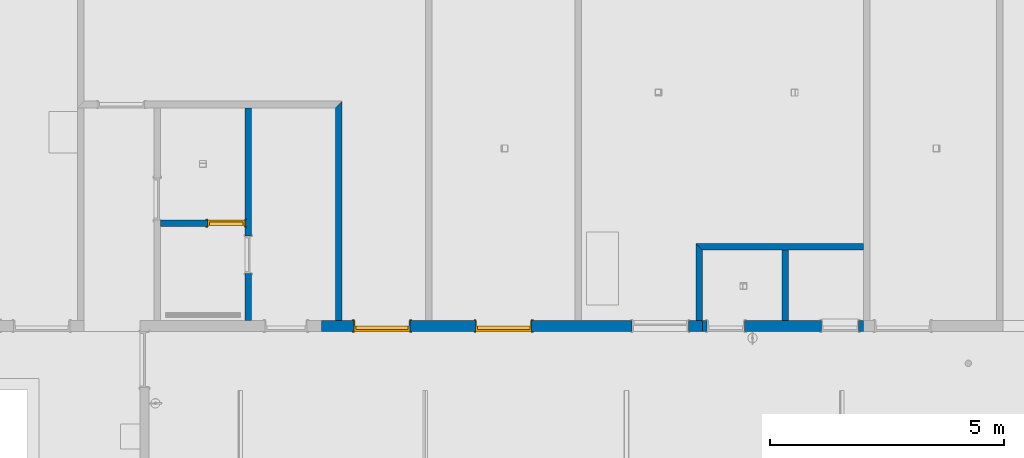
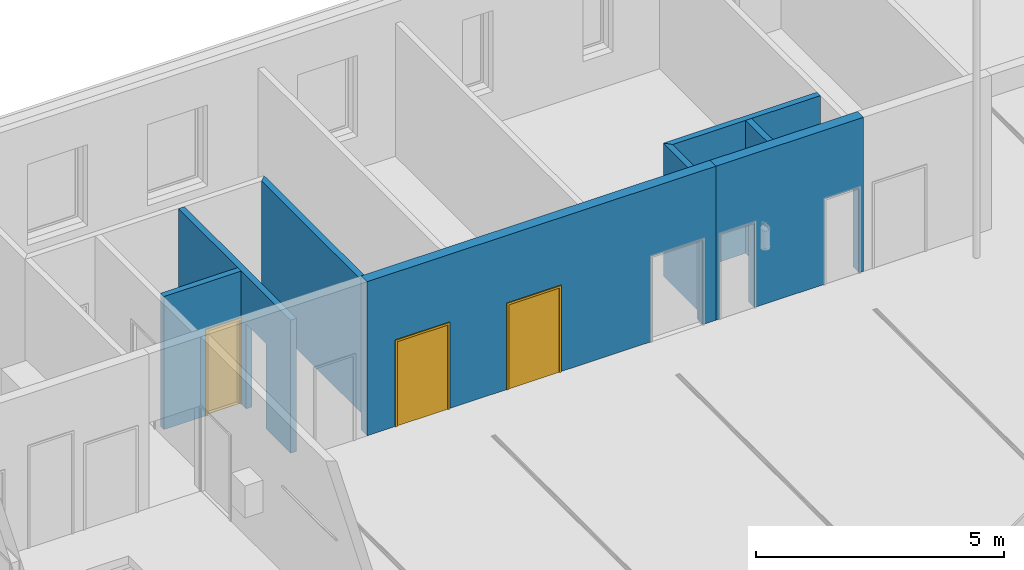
# One storey, part 10 of 112: 8 walls, 3 doors, 7 openings.
"""IFC2X3 building model written with IfcOpenShell, lengths in millimetres."""

from ifc_helpers import new_model, entity, si_unit, converted_unit, derived_unit, money_unit, direction, frame, origin_with_axes, origin_2d_with_axis, place, context, subcontext, project, spatial, polyline, rectangle, outline, extrude, faceted_brep, source, transform, mapped, material, layer, layer_set, layer_usage, type_object, element, fill, save


model = new_model("IFC2X3")

# Units and contexts
model_context = context("Model", 3, precision=0.01, world=origin_with_axes(), true_north=direction((0.0, 1.0)))
body_context = subcontext(model_context, "Body", "Model", "MODEL_VIEW")
ifc_project = project(units=[si_unit("LENGTHUNIT", "METRE", prefix="MILLI"), si_unit("AREAUNIT", "SQUARE_METRE"), si_unit("VOLUMEUNIT", "CUBIC_METRE"), converted_unit("PLANEANGLEUNIT", "DEGREE", entity("IfcPlaneAngleMeasure", 0.0174532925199), si_unit("PLANEANGLEUNIT", "RADIAN"), dimensions=[0, 0, 0, 0, 0, 0, 0]), si_unit("SOLIDANGLEUNIT", "STERADIAN"), money_unit("EUR"), converted_unit("TIMEUNIT", "Year", entity("IfcTimeMeasure", 31556926.0), si_unit("TIMEUNIT", "SECOND"), dimensions=[0, 0, 1, 0, 0, 0, 0]), si_unit("MASSUNIT", "GRAM", prefix="KILO"), si_unit("THERMODYNAMICTEMPERATUREUNIT", "DEGREE_CELSIUS"), si_unit("LUMINOUSINTENSITYUNIT", "LUMEN"), si_unit("ENERGYUNIT", "JOULE", prefix="MEGA"), derived_unit("THERMALCONDUCTANCEUNIT", [(si_unit("POWERUNIT", "WATT"), 1), (si_unit("LENGTHUNIT", "METRE"), -1), (si_unit("THERMODYNAMICTEMPERATUREUNIT", "KELVIN"), -1)]), derived_unit("SPECIFICHEATCAPACITYUNIT", [(si_unit("ENERGYUNIT", "JOULE"), 1), (si_unit("MASSUNIT", "GRAM", prefix="KILO"), -1), (si_unit("THERMODYNAMICTEMPERATUREUNIT", "KELVIN"), -1)]), derived_unit("MASSDENSITYUNIT", [(si_unit("MASSUNIT", "GRAM", prefix="KILO"), 1), (si_unit("VOLUMEUNIT", "CUBIC_METRE"), -1)])], contexts=[model_context])

# Site, building, storey
site_placement = place(None, origin_with_axes())
site = spatial("IfcSite", under=ifc_project, at=site_placement, Name="Politse- ja Piirivalveameti ning Päästeameti ühishoone", CompositionType="ELEMENT")
building_placement = place(site_placement, origin_with_axes())
building = spatial("IfcBuilding", under=site, at=building_placement, Name="Politse- ja Piirivalveameti ning Päästeameti ühishoone", CompositionType="ELEMENT")
storey_placement = place(building_placement, origin_with_axes())
storey = spatial("IfcBuildingStorey", under=building, at=storey_placement, Name="Esimene korrus", CompositionType="ELEMENT", Elevation=0.0)

# Wall, openings, doors
ifc_material = material(Name="KON-05_Betoon Plokk - Konstuktsioon")
ifc_layer_1 = layer(ifc_material, 240.0, ventilated="UNKNOWN")
ifc_layer_set_1 = layer_set([ifc_layer_1], Name="SS-04_Sisesein 240")
ifc_layer_usage_1 = layer_usage(ifc_layer_set_1, "AXIS2", "NEGATIVE", 0.0)
wall_type_1 = type_object("IfcWallType", Name="SS-04_Sisesein 240 240", PredefinedType="NOTDEFINED")
wall_1_placement = place(storey_placement, frame((36544.6147098, 13000.0198611, 0.0), z_axis=(0.0, 0.0, 1.0), x_axis=(1.0, 0.0, 0.0)))
wall_1 = element("IfcWallStandardCase", 1, at=wall_1_placement, inside=storey, type_object=wall_type_1, material=ifc_layer_usage_1, Name="SS-04", context=body_context, shape_type="SweptSolid", body=[
    extrude(outline(polyline([(0.0, -240.0), (8135.917952, -240.0), (8135.917952, 0.0), (0.0, 0.0), (0.0, -240.0)])), origin_with_axes(), (0.0, 0.0, 1.0), 3800.0),
])
opening_1_placement = place(wall_1_placement, frame((1290.0, 0.0, 0.0), z_axis=(0.0, 0.0, 1.0), x_axis=(1.0, 0.0, 0.0)))
opening_1 = element("IfcOpeningElement", 2, at=opening_1_placement, cuts=wall_1, Name="TU-01-2", context=body_context, shape_type="SweptSolid", body=[
    extrude(rectangle(XDim=1200.0, YDim=2100.0, at=origin_2d_with_axis()), frame((0.0, 240.0, 1050.0), z_axis=(0.0, 1.0, 0.0), x_axis=(1.0, 0.0, 0.0)), (0.0, 0.0, -1.0), 720.0),
    extrude(rectangle(XDim=1274.0, YDim=2137.0, at=origin_2d_with_axis()), frame((0.0, 0.0, 1068.5), z_axis=(0.0, 1.0, 0.0), x_axis=(1.0, 0.0, 0.0)), (0.0, 0.0, 1.0), 240.0),
    extrude(rectangle(XDim=1274.0, YDim=2137.0, at=origin_2d_with_axis()), frame((0.0, -240.0, 1068.5), z_axis=(0.0, -1.0, 0.0), x_axis=(1.0, 0.0, 0.0)), (0.0, 0.0, 1.0), 240.0),
])
opening_2_placement = place(wall_1_placement, frame((3889.6116321, 0.0, 0.0), z_axis=(0.0, 0.0, 1.0), x_axis=(1.0, 0.0, 0.0)))
opening_2 = element("IfcOpeningElement", 3, at=opening_2_placement, cuts=wall_1, Name="TU-01-5", context=body_context, shape_type="SweptSolid", body=[
    extrude(rectangle(XDim=1200.0, YDim=2100.0, at=origin_2d_with_axis()), frame((0.0, 240.0, 1050.0), z_axis=(0.0, 1.0, 0.0), x_axis=(1.0, 0.0, 0.0)), (0.0, 0.0, -1.0), 720.0),
    extrude(rectangle(XDim=1274.0, YDim=2137.0, at=origin_2d_with_axis()), frame((0.0, 0.0, 1068.5), z_axis=(0.0, 1.0, 0.0), x_axis=(1.0, 0.0, 0.0)), (0.0, 0.0, 1.0), 240.0),
    extrude(rectangle(XDim=1274.0, YDim=2137.0, at=origin_2d_with_axis()), frame((0.0, -240.0, 1068.5), z_axis=(0.0, -1.0, 0.0), x_axis=(1.0, 0.0, 0.0)), (0.0, 0.0, 1.0), 240.0),
])
opening_3_placement = place(wall_1_placement, frame((7235.917952, 0.0, 0.0), z_axis=(0.0, 0.0, 1.0), x_axis=(1.0, 0.0, 0.0)))
element("IfcOpeningElement", 4, at=opening_3_placement, cuts=wall_1, Name="TU-01-2", context=body_context, shape_type="SweptSolid", body=[
    extrude(rectangle(XDim=1200.0, YDim=2100.0, at=origin_2d_with_axis()), frame((0.0, -240.0, 1050.0), z_axis=(0.0, -1.0, 0.0), x_axis=(1.0, 0.0, 0.0)), (0.0, 0.0, -1.0), 720.0),
    extrude(rectangle(XDim=1274.0, YDim=2137.0, at=origin_2d_with_axis()), frame((0.0, -240.0, 1068.5), z_axis=(0.0, -1.0, 0.0), x_axis=(1.0, 0.0, 0.0)), (0.0, 0.0, 1.0), 240.0),
    extrude(rectangle(XDim=1274.0, YDim=2137.0, at=origin_2d_with_axis()), frame((0.0, 0.0, 1068.5), z_axis=(0.0, 1.0, 0.0), x_axis=(1.0, 0.0, 0.0)), (0.0, 0.0, 1.0), 240.0),
])
door_style_1 = type_object("IfcDoorStyle", Name="Double Door Asymmetric 23", ConstructionType="NOTDEFINED", OperationType="DOUBLE_DOOR_SINGLE_SWING", ParameterTakesPrecedence=False, Sizeable=False)
shared_shape_1 = source(origin_with_axes(), body_context, "Body", "Brep", [
    faceted_brep([(-572.0, -40.0, 0.0), (-560.0, -40.0, 0.0), (-560.0, -40.0, 12.0), (-572.0, -40.0, 12.0), (572.0, -40.0, 0.0), (560.0, -40.0, 0.0), (560.0, -115.0, 0.0), (-560.0, -115.0, 0.0), (-560.0, -115.0, 12.0), (560.0, -115.0, 12.0), (560.0, -40.0, 12.0), (572.0, -40.0, 12.0)], [[[0, 1, 2, 3]], [[0, 4, 5, 6, 7, 1]], [[1, 7, 8, 2]], [[3, 2, 8, 9, 10, 11]], [[4, 0, 3, 11]], [[5, 4, 11, 10]], [[6, 5, 10, 9]], [[7, 6, 9, 8]]]),
    faceted_brep([(600.0, -115.0, 0.0), (600.0, -240.0, 0.0), (575.0, -240.0, 0.0), (575.0, -115.0, 0.0), (600.0, -115.0, 2100.0), (600.0, -240.0, 2100.0), (575.0, -240.0, 2075.0), (575.0, -115.0, 2075.0)], [[[0, 1, 2, 3]], [[4, 5, 1, 0]], [[1, 5, 6, 2]], [[3, 2, 6, 7]], [[0, 3, 7, 4]], [[7, 6, 5, 4]]]),
    faceted_brep([(-600.0, -115.0, 2100.0), (-600.0, -240.0, 2100.0), (-575.0, -240.0, 2075.0), (-575.0, -115.0, 2075.0), (-600.0, -115.0, 0.0), (-600.0, -240.0, 0.0), (-575.0, -240.0, 0.0), (-575.0, -115.0, 0.0)], [[[0, 1, 2, 3]], [[4, 5, 1, 0]], [[1, 5, 6, 2]], [[3, 2, 6, 7]], [[0, 3, 7, 4]], [[7, 6, 5, 4]]]),
    faceted_brep([(575.0, -115.0, 2075.0), (575.0, -240.0, 2075.0), (-575.0, -240.0, 2075.0), (-575.0, -115.0, 2075.0), (600.0, -115.0, 2100.0), (600.0, -240.0, 2100.0), (-600.0, -240.0, 2100.0), (-600.0, -115.0, 2100.0)], [[[0, 1, 2, 3]], [[4, 5, 1, 0]], [[1, 5, 6, 2]], [[3, 2, 6, 7]], [[0, 3, 7, 4]], [[7, 6, 5, 4]]]),
    faceted_brep([(637.0, -259.0, 0.0), (587.0, -259.0, 0.0), (587.0, -240.0, 0.0), (637.0, -240.0, 0.0), (637.0, -259.0, 2137.0), (587.0, -259.0, 2087.0), (587.0, -240.0, 2087.0), (637.0, -240.0, 2137.0)], [[[0, 1, 2, 3]], [[0, 4, 5, 1]], [[1, 5, 6, 2]], [[3, 2, 6, 7]], [[4, 0, 3, 7]], [[5, 4, 7, 6]]]),
    faceted_brep([(-637.0, -259.0, 2137.0), (-587.0, -259.0, 2087.0), (-587.0, -240.0, 2087.0), (-637.0, -240.0, 2137.0), (-637.0, -259.0, 0.0), (-587.0, -259.0, 0.0), (-587.0, -240.0, 0.0), (-637.0, -240.0, 0.0)], [[[0, 1, 2, 3]], [[0, 4, 5, 1]], [[1, 5, 6, 2]], [[3, 2, 6, 7]], [[4, 0, 3, 7]], [[5, 4, 7, 6]]]),
    faceted_brep([(637.0, -259.0, 2137.0), (587.0, -259.0, 2087.0), (587.0, -240.0, 2087.0), (637.0, -240.0, 2137.0), (-637.0, -259.0, 2137.0), (-587.0, -259.0, 2087.0), (-587.0, -240.0, 2087.0), (-637.0, -240.0, 2137.0)], [[[0, 1, 2, 3]], [[0, 4, 5, 1]], [[1, 5, 6, 2]], [[3, 2, 6, 7]], [[4, 0, 3, 7]], [[5, 4, 7, 6]]]),
    faceted_brep([(637.0, 19.0, 0.0), (637.0, 0.0, 0.0), (587.0, 0.0, 0.0), (587.0, 19.0, 0.0), (637.0, 19.0, 2137.0), (637.0, 0.0, 2137.0), (587.0, 0.0, 2087.0), (587.0, 19.0, 2087.0)], [[[0, 1, 2, 3]], [[4, 5, 1, 0]], [[1, 5, 6, 2]], [[3, 2, 6, 7]], [[0, 3, 7, 4]], [[7, 6, 5, 4]]]),
    faceted_brep([(-637.0, 19.0, 2137.0), (-637.0, 0.0, 2137.0), (-587.0, 0.0, 2087.0), (-587.0, 19.0, 2087.0), (-637.0, 19.0, 0.0), (-637.0, 0.0, 0.0), (-587.0, 0.0, 0.0), (-587.0, 19.0, 0.0)], [[[0, 1, 2, 3]], [[4, 5, 1, 0]], [[1, 5, 6, 2]], [[3, 2, 6, 7]], [[0, 3, 7, 4]], [[7, 6, 5, 4]]]),
    faceted_brep([(637.0, 19.0, 2137.0), (637.0, 0.0, 2137.0), (587.0, 0.0, 2087.0), (587.0, 19.0, 2087.0), (-637.0, 19.0, 2137.0), (-637.0, 0.0, 2137.0), (-587.0, 0.0, 2087.0), (-587.0, 19.0, 2087.0)], [[[0, 1, 2, 3]], [[4, 5, 1, 0]], [[1, 5, 6, 2]], [[3, 2, 6, 7]], [[0, 3, 7, 4]], [[7, 6, 5, 4]]]),
    faceted_brep([(560.0, -40.0, 0.0), (560.0, -115.0, 0.0), (560.0, -115.0, 2060.0), (560.0, -40.0, 2060.0), (572.0, -40.0, 0.0), (572.0, 0.0, 0.0), (600.0, 0.0, 0.0), (600.0, -115.0, 0.0), (600.0, -115.0, 2060.0), (572.0, -40.0, 2060.0), (600.0, 0.0, 2060.0), (572.0, 0.0, 2060.0)], [[[0, 1, 2, 3]], [[4, 5, 6, 7, 1, 0]], [[1, 7, 8, 2]], [[9, 3, 2, 8, 10, 11]], [[9, 4, 0, 3]], [[11, 5, 4, 9]], [[11, 10, 6, 5]], [[6, 10, 8, 7]]]),
    faceted_brep([(-572.0, -40.0, 2060.0), (-572.0, 0.0, 2060.0), (-600.0, 0.0, 2060.0), (-600.0, -115.0, 2060.0), (-560.0, -115.0, 2060.0), (-560.0, -40.0, 2060.0), (-572.0, -40.0, 0.0), (-572.0, 0.0, 0.0), (-600.0, 0.0, 0.0), (-600.0, -115.0, 0.0), (-560.0, -115.0, 0.0), (-560.0, -40.0, 0.0)], [[[0, 1, 2, 3, 4, 5]], [[0, 6, 7, 1]], [[7, 8, 2, 1]], [[2, 8, 9, 3]], [[3, 9, 10, 4]], [[5, 4, 10, 11]], [[5, 11, 6, 0]], [[6, 11, 10, 9, 8, 7]]]),
    faceted_brep([(572.0, 0.0, 2072.0), (-572.0, 0.0, 2072.0), (-572.0, 0.0, 2060.0), (-600.0, 0.0, 2060.0), (-600.0, 0.0, 2100.0), (600.0, 0.0, 2100.0), (600.0, 0.0, 2060.0), (572.0, 0.0, 2060.0), (572.0, -40.0, 2072.0), (-572.0, -40.0, 2072.0), (-572.0, -40.0, 2060.0), (-560.0, -40.0, 2060.0), (-560.0, -115.0, 2060.0), (-600.0, -115.0, 2060.0), (-600.0, -115.0, 2100.0), (600.0, -115.0, 2100.0), (600.0, -115.0, 2060.0), (572.0, -40.0, 2060.0), (560.0, -115.0, 2060.0), (560.0, -40.0, 2060.0)], [[[0, 1, 2, 3, 4, 5, 6, 7]], [[0, 8, 9, 1]], [[1, 9, 10, 2]], [[10, 11, 12, 13, 3, 2]], [[4, 3, 13, 14]], [[5, 4, 14, 15]], [[6, 5, 15, 16]], [[17, 7, 6, 16, 18, 19]], [[7, 17, 8, 0]], [[10, 9, 8, 17, 19, 11]], [[19, 18, 12, 11]], [[12, 18, 16, 15, 14, 13]]]),
    faceted_brep([(-572.0, 0.0, 0.0), (-272.0, 0.0, 0.0), (-272.0, -40.0, 0.0), (-572.0, -40.0, 0.0), (-572.0, 0.0, 2072.0), (-272.0, 0.0, 2072.0), (-272.0, -40.0, 2072.0), (-572.0, -40.0, 2072.0)], [[[0, 1, 2, 3]], [[0, 4, 5, 1]], [[1, 5, 6, 2]], [[3, 2, 6, 7]], [[4, 0, 3, 7]], [[5, 4, 7, 6]]]),
    faceted_brep([(572.0, 0.0, 0.0), (572.0, -40.0, 0.0), (-272.0, -40.0, 0.0), (-272.0, 0.0, 0.0), (572.0, 0.0, 2072.0), (572.0, -40.0, 2072.0), (-272.0, -40.0, 2072.0), (-272.0, 0.0, 2072.0)], [[[0, 1, 2, 3]], [[4, 5, 1, 0]], [[1, 5, 6, 2]], [[3, 2, 6, 7]], [[0, 3, 7, 4]], [[7, 6, 5, 4]]]),
])
door_1_placement = place(opening_1_placement, frame((600.0, 0.0, 0.0), z_axis=(0.0, 0.0, 1.0), x_axis=(-1.0, 0.0, 0.0)))
door_1 = element("IfcDoor", 5, at=door_1_placement, inside=storey, type_object=door_style_1, Name="TU-01-2", ObjectType="DOOR", OverallHeight=2100.0, OverallWidth=1200.0, context=body_context, shape_type="MappedRepresentation", body=[
    mapped(shared_shape_1, transform((600.0, 240.0, 0.0))),
])
fill(opening_1, door_1)
door_2_placement = place(opening_2_placement, frame((600.0, 0.0, 0.0), z_axis=(0.0, 0.0, 1.0), x_axis=(-1.0, 0.0, 0.0)))
door_2 = element("IfcDoor", 6, at=door_2_placement, inside=storey, type_object=door_style_1, Name="TU-01-5", ObjectType="DOOR", OverallHeight=2100.0, OverallWidth=1200.0, context=body_context, shape_type="MappedRepresentation", body=[
    mapped(shared_shape_1, transform((600.0, 240.0, 0.0))),
])
fill(opening_2, door_2)

# Wall, openings
ifc_layer_usage_2 = layer_usage(ifc_layer_set_1, "AXIS2", "NEGATIVE", 0.0)
wall_2_placement = place(storey_placement, frame((44680.5326618, 13000.0198611, 0.0), z_axis=(0.0, 0.0, 1.0), x_axis=(1.0, 0.0, 0.0)))
wall_2 = element("IfcWallStandardCase", 7, at=wall_2_placement, inside=storey, type_object=wall_type_1, material=ifc_layer_usage_2, Name="SS-04", context=body_context, shape_type="SweptSolid", body=[
    extrude(outline(polyline([(0.0, -240.0), (3440.0, -240.0), (3440.0, 0.0), (0.0, 0.0), (0.0, -240.0)])), origin_with_axes(), (0.0, 0.0, 1.0), 3800.0),
])
opening_4_placement = place(wall_2_placement, frame((2939.68397339, 0.0, 0.0), z_axis=(0.0, 0.0, 1.0), x_axis=(1.0, 0.0, 0.0)))
element("IfcOpeningElement", 8, at=opening_4_placement, cuts=wall_2, Name="SU-01-6", context=body_context, shape_type="SweptSolid", body=[
    extrude(rectangle(XDim=800.0, YDim=2100.0, at=origin_2d_with_axis()), frame((0.0, -120.0, 1050.0), z_axis=(0.0, 1.0, 0.0), x_axis=(1.0, 0.0, 0.0)), (0.0, 0.0, 1.0), 360.0),
    extrude(rectangle(XDim=800.0, YDim=2100.0, at=origin_2d_with_axis()), frame((0.0, -120.0, 1050.0), z_axis=(0.0, -1.0, 0.0), x_axis=(1.0, 0.0, 0.0)), (0.0, 0.0, 1.0), 360.0),
    extrude(rectangle(XDim=874.0, YDim=2137.0, at=origin_2d_with_axis()), frame((0.0, -240.0, 1068.5), z_axis=(0.0, -1.0, 0.0), x_axis=(1.0, 0.0, 0.0)), (0.0, 0.0, 1.0), 360.0),
    extrude(rectangle(XDim=874.0, YDim=2132.0, at=origin_2d_with_axis()), frame((0.0, 0.0, 1071.0), z_axis=(0.0, 1.0, 0.0), x_axis=(1.0, 0.0, 0.0)), (0.0, 0.0, 1.0), 360.0),
])
opening_5_placement = place(wall_2_placement, frame((500.0, 0.0, 0.0), z_axis=(0.0, 0.0, 1.0), x_axis=(1.0, 0.0, 0.0)))
element("IfcOpeningElement", 9, at=opening_5_placement, cuts=wall_2, Name="SU-01-6", context=body_context, shape_type="SweptSolid", body=[
    extrude(rectangle(XDim=800.0, YDim=2100.0, at=origin_2d_with_axis()), frame((0.0, -120.0, 1050.0), z_axis=(0.0, 1.0, 0.0), x_axis=(1.0, 0.0, 0.0)), (0.0, 0.0, 1.0), 360.0),
    extrude(rectangle(XDim=800.0, YDim=2100.0, at=origin_2d_with_axis()), frame((0.0, -120.0, 1050.0), z_axis=(0.0, -1.0, 0.0), x_axis=(1.0, 0.0, 0.0)), (0.0, 0.0, 1.0), 360.0),
    extrude(rectangle(XDim=874.0, YDim=2137.0, at=origin_2d_with_axis()), frame((0.0, -240.0, 1068.5), z_axis=(0.0, -1.0, 0.0), x_axis=(1.0, 0.0, 0.0)), (0.0, 0.0, 1.0), 360.0),
    extrude(rectangle(XDim=874.0, YDim=2137.0, at=origin_2d_with_axis()), frame((0.0, 0.0, 1068.5), z_axis=(0.0, 1.0, 0.0), x_axis=(1.0, 0.0, 0.0)), (0.0, 0.0, 1.0), 360.0),
])

# Wall
ifc_layer_2 = layer(ifc_material, 140.0, ventilated="UNKNOWN")
ifc_layer_set_2 = layer_set([ifc_layer_2], Name="SS-02_Sisesein 140")
ifc_layer_usage_3 = layer_usage(ifc_layer_set_2, "AXIS2", "POSITIVE", 0.0)
wall_type_2 = type_object("IfcWallType", Name="SS-02_Sisesein 140 140", PredefinedType="NOTDEFINED")
wall_3_placement = place(storey_placement, frame((36984.6147098, 13000.0198611, 0.0), z_axis=(0.0, 0.0, 1.0), x_axis=(0.0, 1.0, 0.0)))
element("IfcWallStandardCase", 10, at=wall_3_placement, inside=storey, type_object=wall_type_2, material=ifc_layer_usage_3, Name="SS-02", context=body_context, shape_type="SweptSolid", body=[
    extrude(outline(polyline([(0.0, 0.0), (4680.0, 0.0), (4540.0, 140.0), (0.0, 140.0), (0.0, 0.0)])), origin_with_axes(), (0.0, 0.0, 1.0), 3280.0),
])

# Wall, opening, door
ifc_layer_usage_4 = layer_usage(ifc_layer_set_2, "AXIS2", "POSITIVE", 0.0)
wall_4_placement = place(storey_placement, frame((32964.7100495, 15000.0198611, 0.0), z_axis=(0.0, 0.0, 1.0), x_axis=(1.0, 0.0, 0.0)))
wall_4 = element("IfcWallStandardCase", 11, at=wall_4_placement, inside=storey, type_object=wall_type_2, material=ifc_layer_usage_4, Name="SS-02", context=body_context, shape_type="SweptSolid", body=[
    extrude(outline(polyline([(140.0, 0.0), (1940.0, 0.0), (1940.0, 140.0), (140.0, 140.0), (140.0, 0.0)])), origin_with_axes(), (0.0, 0.0, 1.0), 3280.0),
])
opening_6_placement = place(wall_4_placement, frame((1542.17683221, 0.0, 0.0), z_axis=(0.0, 0.0, 1.0), x_axis=(1.0, 0.0, 0.0)))
opening_6 = element("IfcOpeningElement", 12, at=opening_6_placement, cuts=wall_4, Name="SU-01-5", context=body_context, shape_type="SweptSolid", body=[
    extrude(rectangle(XDim=800.0, YDim=2100.0, at=origin_2d_with_axis()), frame((0.0, -140.0, 1050.0), z_axis=(0.0, 1.0, 0.0), x_axis=(1.0, 0.0, 0.0)), (0.0, 0.0, 1.0), 420.0),
    extrude(rectangle(XDim=874.0, YDim=2137.0, at=origin_2d_with_axis()), frame((0.0, 0.0, 1068.5), z_axis=(0.0, 1.0, 0.0), x_axis=(1.0, 0.0, 0.0)), (0.0, 0.0, -1.0), 140.0),
    extrude(rectangle(XDim=874.0, YDim=2137.0, at=origin_2d_with_axis()), frame((0.0, 140.0, 1068.5), z_axis=(0.0, -1.0, 0.0), x_axis=(1.0, 0.0, 0.0)), (0.0, 0.0, -1.0), 140.0),
])
door_style_2 = type_object("IfcDoorStyle", Name="Door 23", ConstructionType="NOTDEFINED", OperationType="SINGLE_SWING_RIGHT", ParameterTakesPrecedence=False, Sizeable=False)
shared_shape_2 = source(origin_with_axes(), body_context, "Body", "Brep", [
    faceted_brep([(372.0, -40.0, 0.0), (372.0, -40.0, 12.0), (360.0, -40.0, 12.0), (360.0, -40.0, 0.0), (-372.0, -40.0, 0.0), (-372.0, -40.0, 12.0), (-360.0, -40.0, 12.0), (-360.0, -115.0, 12.0), (360.0, -115.0, 12.0), (360.0, -115.0, 0.0), (-360.0, -115.0, 0.0), (-360.0, -40.0, 0.0)], [[[0, 1, 2, 3]], [[4, 5, 1, 0]], [[1, 5, 6, 7, 8, 2]], [[3, 2, 8, 9]], [[0, 3, 9, 10, 11, 4]], [[11, 6, 5, 4]], [[10, 7, 6, 11]], [[9, 8, 7, 10]]]),
    faceted_brep([(-400.0, -115.0, 0.0), (-375.0, -115.0, 0.0), (-375.0, -140.0, 0.0), (-400.0, -140.0, 0.0), (-400.0, -115.0, 2100.0), (-375.0, -115.0, 2075.0), (-375.0, -140.0, 2075.0), (-400.0, -140.0, 2100.0)], [[[0, 1, 2, 3]], [[0, 4, 5, 1]], [[1, 5, 6, 2]], [[3, 2, 6, 7]], [[4, 0, 3, 7]], [[5, 4, 7, 6]]]),
    faceted_brep([(400.0, -115.0, 2100.0), (375.0, -115.0, 2075.0), (375.0, -140.0, 2075.0), (400.0, -140.0, 2100.0), (400.0, -115.0, 0.0), (375.0, -115.0, 0.0), (375.0, -140.0, 0.0), (400.0, -140.0, 0.0)], [[[0, 1, 2, 3]], [[0, 4, 5, 1]], [[1, 5, 6, 2]], [[3, 2, 6, 7]], [[4, 0, 3, 7]], [[5, 4, 7, 6]]]),
    faceted_brep([(-375.0, -115.0, 2075.0), (375.0, -115.0, 2075.0), (375.0, -140.0, 2075.0), (-375.0, -140.0, 2075.0), (-400.0, -115.0, 2100.0), (400.0, -115.0, 2100.0), (400.0, -140.0, 2100.0), (-400.0, -140.0, 2100.0)], [[[0, 1, 2, 3]], [[0, 4, 5, 1]], [[1, 5, 6, 2]], [[3, 2, 6, 7]], [[4, 0, 3, 7]], [[5, 4, 7, 6]]]),
    faceted_brep([(-437.0, -159.0, 0.0), (-437.0, -140.0, 0.0), (-387.0, -140.0, 0.0), (-387.0, -159.0, 0.0), (-437.0, -159.0, 2137.0), (-437.0, -140.0, 2137.0), (-387.0, -140.0, 2087.0), (-387.0, -159.0, 2087.0)], [[[0, 1, 2, 3]], [[4, 5, 1, 0]], [[1, 5, 6, 2]], [[3, 2, 6, 7]], [[0, 3, 7, 4]], [[7, 6, 5, 4]]]),
    faceted_brep([(437.0, -159.0, 2137.0), (437.0, -140.0, 2137.0), (387.0, -140.0, 2087.0), (387.0, -159.0, 2087.0), (437.0, -159.0, 0.0), (437.0, -140.0, 0.0), (387.0, -140.0, 0.0), (387.0, -159.0, 0.0)], [[[0, 1, 2, 3]], [[4, 5, 1, 0]], [[1, 5, 6, 2]], [[3, 2, 6, 7]], [[0, 3, 7, 4]], [[7, 6, 5, 4]]]),
    faceted_brep([(-437.0, -159.0, 2137.0), (-437.0, -140.0, 2137.0), (-387.0, -140.0, 2087.0), (-387.0, -159.0, 2087.0), (437.0, -159.0, 2137.0), (437.0, -140.0, 2137.0), (387.0, -140.0, 2087.0), (387.0, -159.0, 2087.0)], [[[0, 1, 2, 3]], [[4, 5, 1, 0]], [[1, 5, 6, 2]], [[3, 2, 6, 7]], [[0, 3, 7, 4]], [[7, 6, 5, 4]]]),
    faceted_brep([(-437.0, 19.0, 0.0), (-387.0, 19.0, 0.0), (-387.0, 0.0, 0.0), (-437.0, 0.0, 0.0), (-437.0, 19.0, 2137.0), (-387.0, 19.0, 2087.0), (-387.0, 0.0, 2087.0), (-437.0, 0.0, 2137.0)], [[[0, 1, 2, 3]], [[0, 4, 5, 1]], [[1, 5, 6, 2]], [[3, 2, 6, 7]], [[4, 0, 3, 7]], [[5, 4, 7, 6]]]),
    faceted_brep([(437.0, 19.0, 2137.0), (387.0, 19.0, 2087.0), (387.0, 0.0, 2087.0), (437.0, 0.0, 2137.0), (437.0, 19.0, 0.0), (387.0, 19.0, 0.0), (387.0, 0.0, 0.0), (437.0, 0.0, 0.0)], [[[0, 1, 2, 3]], [[0, 4, 5, 1]], [[1, 5, 6, 2]], [[3, 2, 6, 7]], [[4, 0, 3, 7]], [[5, 4, 7, 6]]]),
    faceted_brep([(-437.0, 19.0, 2137.0), (-387.0, 19.0, 2087.0), (-387.0, 0.0, 2087.0), (-437.0, 0.0, 2137.0), (437.0, 19.0, 2137.0), (387.0, 19.0, 2087.0), (387.0, 0.0, 2087.0), (437.0, 0.0, 2137.0)], [[[0, 1, 2, 3]], [[0, 4, 5, 1]], [[1, 5, 6, 2]], [[3, 2, 6, 7]], [[4, 0, 3, 7]], [[5, 4, 7, 6]]]),
    faceted_brep([(-360.0, -40.0, 0.0), (-360.0, -40.0, 2060.0), (-360.0, -115.0, 2060.0), (-360.0, -115.0, 0.0), (-372.0, -40.0, 2060.0), (-372.0, -40.0, 0.0), (-372.0, 0.0, 2060.0), (-400.0, 0.0, 2060.0), (-400.0, -115.0, 2060.0), (-400.0, -115.0, 0.0), (-400.0, 0.0, 0.0), (-372.0, 0.0, 0.0)], [[[0, 1, 2, 3]], [[4, 1, 0, 5]], [[4, 6, 7, 8, 2, 1]], [[3, 2, 8, 9]], [[5, 0, 3, 9, 10, 11]], [[6, 4, 5, 11]], [[6, 11, 10, 7]], [[10, 9, 8, 7]]]),
    faceted_brep([(372.0, -40.0, 2060.0), (360.0, -40.0, 2060.0), (360.0, -115.0, 2060.0), (400.0, -115.0, 2060.0), (400.0, 0.0, 2060.0), (372.0, 0.0, 2060.0), (372.0, -40.0, 0.0), (360.0, -40.0, 0.0), (360.0, -115.0, 0.0), (400.0, -115.0, 0.0), (400.0, 0.0, 0.0), (372.0, 0.0, 0.0)], [[[0, 1, 2, 3, 4, 5]], [[1, 0, 6, 7]], [[1, 7, 8, 2]], [[3, 2, 8, 9]], [[4, 3, 9, 10]], [[11, 5, 4, 10]], [[0, 5, 11, 6]], [[6, 11, 10, 9, 8, 7]]]),
    faceted_brep([(-372.0, 0.0, 2072.0), (-372.0, 0.0, 2060.0), (-400.0, 0.0, 2060.0), (-400.0, 0.0, 2100.0), (400.0, 0.0, 2100.0), (400.0, 0.0, 2060.0), (372.0, 0.0, 2060.0), (372.0, 0.0, 2072.0), (-372.0, -40.0, 2072.0), (-372.0, -40.0, 2060.0), (-360.0, -40.0, 2060.0), (-360.0, -115.0, 2060.0), (-400.0, -115.0, 2060.0), (-400.0, -115.0, 2100.0), (400.0, -115.0, 2100.0), (400.0, -115.0, 2060.0), (372.0, -40.0, 2060.0), (360.0, -115.0, 2060.0), (360.0, -40.0, 2060.0), (372.0, -40.0, 2072.0)], [[[0, 1, 2, 3, 4, 5, 6, 7]], [[1, 0, 8, 9]], [[9, 10, 11, 12, 2, 1]], [[2, 12, 13, 3]], [[3, 13, 14, 4]], [[4, 14, 15, 5]], [[16, 6, 5, 15, 17, 18]], [[7, 6, 16, 19]], [[0, 7, 19, 8]], [[16, 18, 10, 9, 8, 19]], [[10, 18, 17, 11]], [[17, 15, 14, 13, 12, 11]]]),
    faceted_brep([(372.0, 0.0, 0.0), (372.0, -40.0, 0.0), (-372.0, -40.0, 0.0), (-372.0, 0.0, 0.0), (372.0, 0.0, 2072.0), (372.0, -40.0, 2072.0), (-372.0, -40.0, 2072.0), (-372.0, 0.0, 2072.0)], [[[0, 1, 2, 3]], [[4, 5, 1, 0]], [[1, 5, 6, 2]], [[3, 2, 6, 7]], [[0, 3, 7, 4]], [[7, 6, 5, 4]]]),
])
door_3_placement = place(opening_6_placement, frame((-400.0, 0.0, 0.0), z_axis=(0.0, 0.0, 1.0), x_axis=(1.0, 0.0, 0.0)))
door_3 = element("IfcDoor", 13, at=door_3_placement, inside=storey, type_object=door_style_2, Name="SU-01-5", ObjectType="DOOR", OverallHeight=2100.0, OverallWidth=800.0, context=body_context, shape_type="MappedRepresentation", body=[
    mapped(shared_shape_2, transform((400.0, 140.0, 0.0))),
])
fill(opening_6, door_3)

# Walls
ifc_layer_usage_5 = layer_usage(ifc_layer_set_2, "AXIS2", "POSITIVE", 0.0)
wall_5_placement = place(storey_placement, frame((46520.8084885, 13000.0198611, 0.0), z_axis=(0.0, 0.0, 1.0), x_axis=(0.0, 1.0, 0.0)))
element("IfcWallStandardCase", 14, at=wall_5_placement, inside=storey, type_object=wall_type_2, material=ifc_layer_usage_5, Name="SS-02", context=body_context, shape_type="SweptSolid", body=[
    extrude(outline(polyline([(0.0, 0.0), (1500.0, 0.0), (1500.0, 140.0), (0.0, 140.0), (0.0, 0.0)])), origin_with_axes(), (0.0, 0.0, 1.0), 3280.0),
])
ifc_layer_usage_6 = layer_usage(ifc_layer_set_2, "AXIS2", "POSITIVE", 0.0)
wall_6_placement = place(storey_placement, frame((44680.5326618, 14500.0198611, 0.0), z_axis=(0.0, 0.0, 1.0), x_axis=(1.0, 0.0, 0.0)))
element("IfcWallStandardCase", 15, at=wall_6_placement, inside=storey, type_object=wall_type_2, material=ifc_layer_usage_6, Name="SS-02", context=body_context, shape_type="SweptSolid", body=[
    extrude(outline(polyline([(0.0, 0.0), (3440.0, 0.0), (3440.0, 140.0), (-140.0, 140.0), (0.0, 0.0)])), origin_with_axes(), (0.0, 0.0, 1.0), 3280.0),
])

# Wall, opening
ifc_layer_usage_7 = layer_usage(ifc_layer_set_2, "AXIS2", "POSITIVE", 0.0)
wall_7_placement = place(storey_placement, frame((35044.7100495, 13000.0198611, 0.0), z_axis=(0.0, 0.0, 1.0), x_axis=(0.0, 1.0, 0.0)))
wall_7 = element("IfcWallStandardCase", 16, at=wall_7_placement, inside=storey, type_object=wall_type_2, material=ifc_layer_usage_7, Name="SS-02", context=body_context, shape_type="SweptSolid", body=[
    extrude(outline(polyline([(0.0, 0.0), (4540.0, 0.0), (4540.0, 140.0), (0.0, 140.0), (0.0, 0.0)])), origin_with_axes(), (0.0, 0.0, 1.0), 3280.0),
])
opening_7_placement = place(wall_7_placement, frame((1400.0, 0.0, 0.0), z_axis=(0.0, 0.0, 1.0), x_axis=(1.0, 0.0, 0.0)))
element("IfcOpeningElement", 17, at=opening_7_placement, cuts=wall_7, Name="SU-01-5", context=body_context, shape_type="SweptSolid", body=[
    extrude(rectangle(XDim=800.0, YDim=2100.0, at=origin_2d_with_axis()), frame((0.0, -140.0, 1050.0), z_axis=(0.0, -1.0, 0.0), x_axis=(1.0, 0.0, 0.0)), (0.0, 0.0, -1.0), 420.0),
    extrude(rectangle(XDim=874.0, YDim=2137.0, at=origin_2d_with_axis()), frame((0.0, 0.0, 1068.5), z_axis=(0.0, -1.0, 0.0), x_axis=(1.0, 0.0, 0.0)), (0.0, 0.0, 1.0), 140.0),
    extrude(rectangle(XDim=874.0, YDim=2137.0, at=origin_2d_with_axis()), frame((0.0, 140.0, 1068.5), z_axis=(0.0, 1.0, 0.0), x_axis=(1.0, 0.0, 0.0)), (0.0, 0.0, 1.0), 140.0),
])

# Wall
ifc_layer_usage_8 = layer_usage(ifc_layer_set_2, "AXIS2", "POSITIVE", 0.0)
wall_8_placement = place(storey_placement, frame((44680.5326618, 13000.0198611, 0.0), z_axis=(0.0, 0.0, 1.0), x_axis=(0.0, 1.0, 0.0)))
element("IfcWallStandardCase", 18, at=wall_8_placement, inside=storey, type_object=wall_type_2, material=ifc_layer_usage_8, Name="SS-02", context=body_context, shape_type="SweptSolid", body=[
    extrude(outline(polyline([(0.0, 0.0), (1500.0, 0.0), (1640.0, 140.0), (0.0, 140.0), (0.0, 0.0)])), origin_with_axes(), (0.0, 0.0, 1.0), 3280.0),
])

save(model, "model.ifc")
